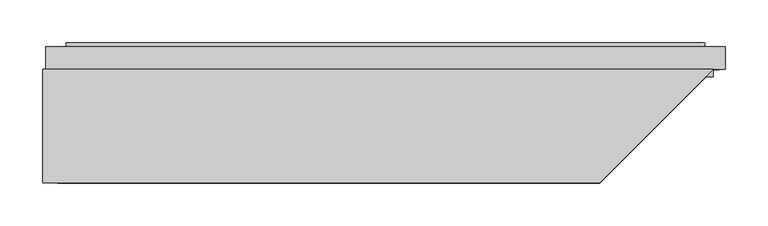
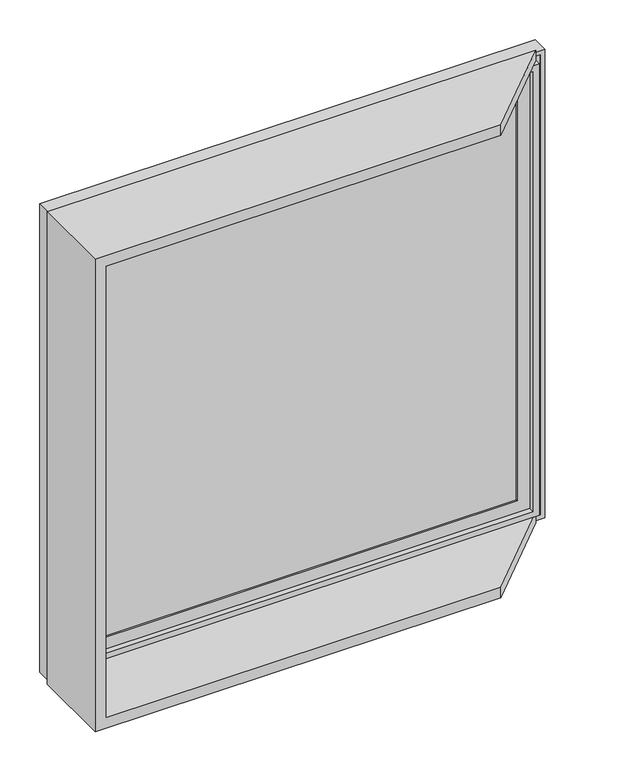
"""IFC4 building model written with IfcOpenShell, lengths in millimetres: plate geometry, SCISSOR PANEL : SCISSOR PANEL."""

from ifc_helpers import new_model, si_unit, frame, origin, place, context, project, spatial, polyline, outline, extrude, faceted_brep, source, transform, mapped, element, save


def plate_85a4d653(model_context):
    return source(origin(), model_context, "Body", "SolidModel", [
        faceted_brep([(-400.0, 132.5, 0.0), (-400.0, 132.5, 800.0), (382.5, 132.5, 800.0), (382.5, 132.5, 782.5), (-382.5, 132.5, 782.5), (-382.5, 132.5, 17.5), (382.5, 132.5, 17.5), (382.5, 132.5, 0.0), (-382.5, 0.0, 782.5), (-382.5, 0.0, 17.5), (250.0, 0.0, 17.5), (250.0, 0.0, 0.0), (250.0, 0.0, 800.0), (250.0, 0.0, 782.5), (-400.0, 0.0, 800.0), (-400.0, 0.0, 0.0)], [[[0, 1, 2, 3, 4, 5, 6, 7]], [[8, 9, 5, 4]], [[10, 11, 7, 6]], [[12, 13, 3, 2]], [[14, 15, 11, 10, 9, 8, 13, 12]], [[15, 14, 1, 0]], [[15, 0, 7, 11]], [[1, 14, 12, 2]], [[4, 3, 13, 8]], [[6, 5, 9, 10]]]),
        extrude(outline(polyline([(-369.5, 160.5), (369.5, 160.5), (369.5, 135.5), (-369.5, 135.5), (-369.5, 160.5)])), frame((0.0, 0.0, 30.5), z_axis=(0.0, 0.0, 1.0), x_axis=(1.0, 0.0, 0.0)), (0.0, 0.0, 1.0), 739.0),
        faceted_brep([(-352.5, 135.5, 752.5), (-352.5, 132.5, 752.5), (-352.5, 132.5, 47.5), (-352.5, 135.5, 47.5), (-369.5, 160.5, 769.5), (-369.5, 135.5, 769.5), (-369.5, 135.5, 30.5), (-369.5, 160.5, 30.5), (-352.5, 163.5, 752.5), (-352.5, 160.5, 752.5), (-352.5, 160.5, 47.5), (-352.5, 163.5, 47.5), (-372.5, 132.5, 772.5), (-372.5, 163.5, 772.5), (-372.5, 163.5, 27.5), (-372.5, 132.5, 27.5), (352.5, 132.5, 47.5), (352.5, 135.5, 47.5), (369.5, 135.5, 30.5), (369.5, 160.5, 30.5), (352.5, 160.5, 47.5), (352.5, 163.5, 47.5), (372.5, 163.5, 27.5), (372.5, 132.5, 27.5), (352.5, 132.5, 752.5), (352.5, 135.5, 752.5), (369.5, 135.5, 769.5), (369.5, 160.5, 769.5), (352.5, 160.5, 752.5), (352.5, 163.5, 752.5), (372.5, 163.5, 772.5), (372.5, 132.5, 772.5)], [[[0, 1, 2, 3]], [[4, 5, 6, 7]], [[8, 9, 10, 11]], [[12, 13, 14, 15]], [[3, 2, 16, 17]], [[7, 6, 18, 19]], [[11, 10, 20, 21]], [[15, 14, 22, 23]], [[17, 16, 24, 25]], [[19, 18, 26, 27]], [[21, 20, 28, 29]], [[23, 22, 30, 31]], [[15, 23, 31, 12], [1, 24, 16, 2]], [[25, 24, 1, 0]], [[5, 26, 18, 6], [3, 17, 25, 0]], [[27, 26, 5, 4]], [[7, 19, 27, 4], [9, 28, 20, 10]], [[29, 28, 9, 8]], [[13, 30, 22, 14], [11, 21, 29, 8]], [[31, 30, 13, 12]]]),
        faceted_brep([(-396.5, 132.5, 796.5), (-396.5, 158.75, 796.5), (-396.5, 158.75, 3.5), (-396.5, 132.5, 3.5), (-389.5, 150.0, 789.5), (-389.5, 132.5, 789.5), (-389.5, 132.5, 10.5), (-389.5, 150.0, 10.5), (-382.5, 123.75, 782.5), (-382.5, 150.0, 782.5), (-382.5, 150.0, 17.5), (-382.5, 123.75, 17.5), (-372.5, 158.75, 772.5), (-372.5, 123.75, 772.5), (-372.5, 123.75, 27.5), (-372.5, 158.75, 27.5), (396.5, 158.75, 3.5), (396.5, 132.5, 3.5), (389.5, 132.5, 10.5), (389.5, 150.0, 10.5), (382.5, 150.0, 17.5), (382.5, 123.75, 17.5), (372.5, 123.75, 27.5), (372.5, 158.75, 27.5), (396.5, 158.75, 796.5), (396.5, 132.5, 796.5), (389.5, 132.5, 789.5), (389.5, 150.0, 789.5), (382.5, 150.0, 782.5), (382.5, 123.75, 782.5), (372.5, 123.75, 772.5), (372.5, 158.75, 772.5)], [[[0, 1, 2, 3]], [[4, 5, 6, 7]], [[8, 9, 10, 11]], [[12, 13, 14, 15]], [[3, 2, 16, 17]], [[7, 6, 18, 19]], [[11, 10, 20, 21]], [[15, 14, 22, 23]], [[17, 16, 24, 25]], [[19, 18, 26, 27]], [[21, 20, 28, 29]], [[23, 22, 30, 31]], [[25, 24, 1, 0]], [[3, 17, 25, 0], [5, 26, 18, 6]], [[27, 26, 5, 4]], [[7, 19, 27, 4], [9, 28, 20, 10]], [[29, 28, 9, 8]], [[11, 21, 29, 8], [13, 30, 22, 14]], [[31, 30, 13, 12]], [[1, 24, 16, 2], [15, 23, 31, 12]]]),
        extrude(outline(polyline([(789.5, -389.5), (10.5, -389.5), (10.5, 389.5), (789.5, 389.5), (789.5, -389.5)]), holes=[polyline([(782.5, -382.5), (782.5, 382.5), (17.5, 382.5), (17.5, -382.5), (782.5, -382.5)])]), frame((0.0, 132.5, 0.0), z_axis=(0.0, 1.0, 0.0), x_axis=(0.0, 0.0, 1.0)), (0.0, 0.0, 1.0), 17.5),
    ])


if __name__ == "__main__":
    model = new_model("IFC4")
    model_context = context("Model", 3, world=origin())
    ifc_project = project(units=[si_unit("LENGTHUNIT", "METRE", prefix="MILLI")], contexts=[model_context])
    site = spatial("IfcSite", under=ifc_project)
    building = spatial("IfcBuilding", under=site)
    placement = place(None, origin())
    plate_shape = plate_85a4d653(model_context)
    element("IfcPlate", 1, ObjectType="SCISSOR PANEL : SCISSOR PANEL", at=placement, inside=building, context=model_context, shape_type="MappedRepresentation", body=[
        mapped(plate_shape, transform((0.0, 0.0, 0.0), x_axis=(1.0, 0.0, 0.0), y_axis=(0.0, 1.0, 0.0), z_axis=(0.0, 0.0, 1.0))),
    ])
    save(model, "model.ifc")
